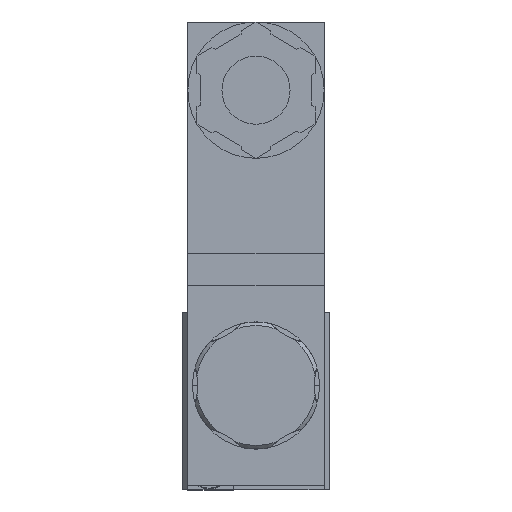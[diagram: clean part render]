
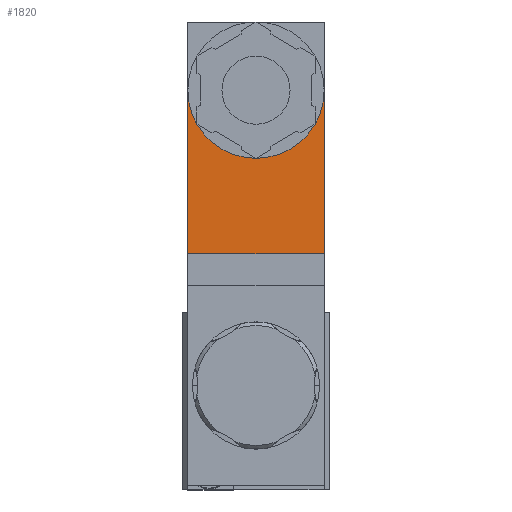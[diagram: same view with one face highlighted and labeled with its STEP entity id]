
A CAD part, front view. The second image highlights one B-rep face of the part: STEP entity #1820.
In plain terms, the highlighted planar face has unit normal (0, -1, 0) as drawn and (-1, 0, 0) by its records, which use the part's own axes.
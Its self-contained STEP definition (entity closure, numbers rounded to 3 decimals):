
#1820=ADVANCED_FACE('2:198628',(#4234),#4235,.T.);
#4234=FACE_OUTER_BOUND('',#7357,.T.);
#4235=PLANE('',#7358);
#7357=EDGE_LOOP('',(#12873,#12874,#12875,#12876));
#7358=AXIS2_PLACEMENT_3D('',#12877,#12878,#12879);
#12873=ORIENTED_EDGE('',*,*,#20483,.F.);
#12874=ORIENTED_EDGE('',*,*,#20427,.F.);
#12875=ORIENTED_EDGE('',*,*,#20484,.T.);
#12876=ORIENTED_EDGE('',*,*,#20485,.F.);
#12877=CARTESIAN_POINT('',(-84.8,65.8,-59.68));
#12878=DIRECTION('',(-1.0,0.,0.));
#12879=DIRECTION('',(0.,1.0,0.));
#20427=EDGE_CURVE('2:198868',#24493,#24503,#24554,.T.);
#20483=EDGE_CURVE('2:199015',#24503,#24644,#24645,.T.);
#20484=EDGE_CURVE('2:199018',#24493,#24646,#24647,.T.);
#20485=EDGE_CURVE('2:199021',#24644,#24646,#24648,.T.);
#24493=VERTEX_POINT('NONE',#30616);
#24503=VERTEX_POINT('NONE',#30627);
#24554=CIRCLE('',#30687,7.5);
#24644=VERTEX_POINT('NONE',#30836);
#24645=LINE('',#30837,#30838);
#24646=VERTEX_POINT('NONE',#30839);
#24647=LINE('',#30840,#30841);
#24648=LINE('',#30842,#30843);
#30616=CARTESIAN_POINT('',(-84.8,58.3,-67.18));
#30627=CARTESIAN_POINT('',(-84.8,58.3,-52.18));
#30687=AXIS2_PLACEMENT_3D('',#45613,#45614,#45615);
#30836=CARTESIAN_POINT('',(-84.8,40.3,-52.18));
#30837=CARTESIAN_POINT('',(-84.8,65.8,-52.18));
#30838=VECTOR('',#45665,1.0);
#30839=CARTESIAN_POINT('',(-84.8,40.3,-67.18));
#30840=CARTESIAN_POINT('',(-84.8,65.8,-67.18));
#30841=VECTOR('',#45666,1.0);
#30842=CARTESIAN_POINT('',(-84.8,40.3,-59.68));
#30843=VECTOR('',#45667,1.0);
#45613=CARTESIAN_POINT('',(-84.8,58.3,-59.68));
#45614=DIRECTION('',(-1.0,0.,0.));
#45615=DIRECTION('',(0.,0.,1.0));
#45665=DIRECTION('',(0.,-1.0,0.));
#45666=DIRECTION('',(0.,-1.0,0.));
#45667=DIRECTION('',(0.,0.,-1.0));
